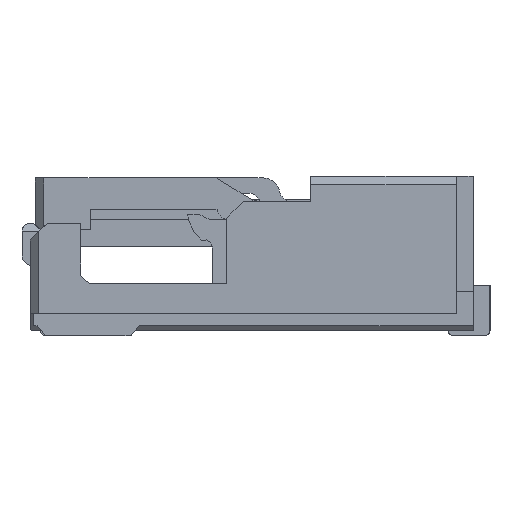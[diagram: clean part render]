
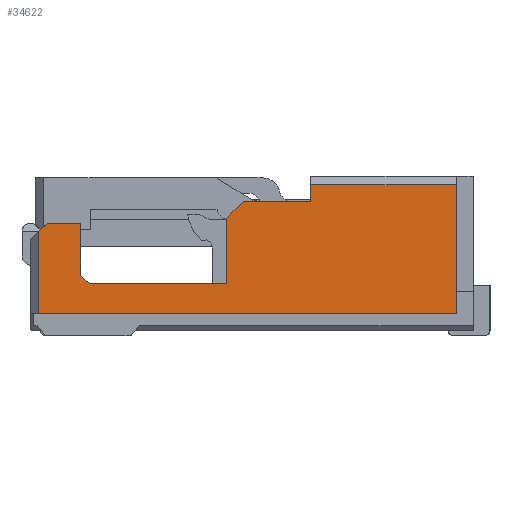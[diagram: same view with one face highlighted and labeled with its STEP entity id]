
A CAD part, left-side view. The second image highlights one B-rep face of the part: STEP entity #34622.
In plain terms, the highlighted planar face has unit normal (-1, 0, 0).
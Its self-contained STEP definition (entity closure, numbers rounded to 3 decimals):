
#573 = VECTOR ( 'NONE', #20013, 1000. ) ;
#641 = EDGE_CURVE ( 'NONE', #30850, #8297, #14460, .T. ) ;
#669 = CARTESIAN_POINT ( 'NONE',  ( -2.7, 2.34, 0. ) ) ;
#1071 = CARTESIAN_POINT ( 'NONE',  ( -2.7, 2.34, 0.64 ) ) ;
#1460 = CARTESIAN_POINT ( 'NONE',  ( -2.7, 0.97, 0.87 ) ) ;
#1805 = CARTESIAN_POINT ( 'NONE',  ( -2.7, 2.59, 0. ) ) ;
#1815 = ORIENTED_EDGE ( 'NONE', *, *, #8589, .F. ) ;
#2162 = LINE ( 'NONE', #34943, #16730 ) ;
#2318 = LINE ( 'NONE', #35091, #12048 ) ;
#2398 = ORIENTED_EDGE ( 'NONE', *, *, #3803, .F. ) ;
#2480 = VERTEX_POINT ( 'NONE', #1460 ) ;
#2626 = VERTEX_POINT ( 'NONE', #13104 ) ;
#2760 = DIRECTION ( 'NONE',  ( 1., 0., 0. ) ) ;
#3803 = EDGE_CURVE ( 'NONE', #8297, #36134, #34763, .T. ) ;
#4179 = LINE ( 'NONE', #25698, #5579 ) ;
#4307 = CARTESIAN_POINT ( 'NONE',  ( -2.7, 1.47, 0.67 ) ) ;
#4436 = LINE ( 'NONE', #669, #35626 ) ;
#5579 = VECTOR ( 'NONE', #21955, 1000. ) ;
#6031 = ORIENTED_EDGE ( 'NONE', *, *, #23932, .F. ) ;
#6080 = ORIENTED_EDGE ( 'NONE', *, *, #10478, .F. ) ;
#6511 = CARTESIAN_POINT ( 'NONE',  ( -2.7, 0., 0. ) ) ;
#6564 = VECTOR ( 'NONE', #34587, 1000. ) ;
#6652 = CARTESIAN_POINT ( 'NONE',  ( -2.7, 1.37, 0.77 ) ) ;
#6998 = DIRECTION ( 'NONE',  ( 0., -0.707, -0.707 ) ) ;
#8297 = VERTEX_POINT ( 'NONE', #10928 ) ;
#8589 = EDGE_CURVE ( 'NONE', #30743, #24937, #2318, .T. ) ;
#8709 = DIRECTION ( 'NONE',  ( 0., -1., 0. ) ) ;
#10478 = EDGE_CURVE ( 'NONE', #26644, #30850, #4436, .T. ) ;
#10720 = CARTESIAN_POINT ( 'NONE',  ( -2.7, 2.34, 0.33 ) ) ;
#10928 = CARTESIAN_POINT ( 'NONE',  ( -2.7, 2.29, 0.28 ) ) ;
#11089 = ORIENTED_EDGE ( 'NONE', *, *, #23338, .T. ) ;
#11406 = VERTEX_POINT ( 'NONE', #27192 ) ;
#11582 = VECTOR ( 'NONE', #27279, 1000. ) ;
#12048 = VECTOR ( 'NONE', #31360, 1000. ) ;
#12460 = CARTESIAN_POINT ( 'NONE',  ( -2.7, 0., 0.87 ) ) ;
#12629 = DIRECTION ( 'NONE',  ( 0., -0.707, 0.707 ) ) ;
#13010 = EDGE_CURVE ( 'NONE', #11406, #30743, #20512, .T. ) ;
#13075 = DIRECTION ( 'NONE',  ( 0., -1., 0. ) ) ;
#13104 = CARTESIAN_POINT ( 'NONE',  ( -2.7, 0.97, 0.77 ) ) ;
#13555 = VECTOR ( 'NONE', #24143, 1000. ) ;
#13979 = PLANE ( 'NONE',  #23043 ) ;
#14460 = LINE ( 'NONE', #10720, #32446 ) ;
#14724 = CARTESIAN_POINT ( 'NONE',  ( -2.7, 2.34, 0.33 ) ) ;
#14771 = ORIENTED_EDGE ( 'NONE', *, *, #20789, .F. ) ;
#14773 = VERTEX_POINT ( 'NONE', #19252 ) ;
#14840 = LINE ( 'NONE', #21433, #18795 ) ;
#15198 = VECTOR ( 'NONE', #12629, 1000. ) ;
#15822 = VERTEX_POINT ( 'NONE', #26695 ) ;
#16166 = LINE ( 'NONE', #12460, #27643 ) ;
#16345 = CARTESIAN_POINT ( 'NONE',  ( -2.7, 1.47, 0.67 ) ) ;
#16730 = VECTOR ( 'NONE', #31203, 1000. ) ;
#16811 = CARTESIAN_POINT ( 'NONE',  ( -2.7, 0., 0.77 ) ) ;
#17719 = DIRECTION ( 'NONE',  ( 0., 0., -1. ) ) ;
#18364 = ORIENTED_EDGE ( 'NONE', *, *, #33679, .F. ) ;
#18795 = VECTOR ( 'NONE', #17719, 1000. ) ;
#19252 = CARTESIAN_POINT ( 'NONE',  ( -2.7, 0.1, 0.87 ) ) ;
#19525 = ORIENTED_EDGE ( 'NONE', *, *, #22479, .T. ) ;
#20013 = DIRECTION ( 'NONE',  ( 0., 0., -1. ) ) ;
#20161 = ORIENTED_EDGE ( 'NONE', *, *, #21273, .F. ) ;
#20222 = FACE_OUTER_BOUND ( 'NONE', #21577, .T. ) ;
#20512 = LINE ( 'NONE', #1805, #6564 ) ;
#20554 = LINE ( 'NONE', #16811, #24433 ) ;
#20789 = EDGE_CURVE ( 'NONE', #2480, #14773, #16166, .T. ) ;
#21273 = EDGE_CURVE ( 'NONE', #29605, #35564, #23845, .T. ) ;
#21433 = CARTESIAN_POINT ( 'NONE',  ( -2.7, 0.1, 0. ) ) ;
#21577 = EDGE_LOOP ( 'NONE', ( #6031, #1815, #29285, #19525, #18364, #14771, #27936, #33662, #20161, #11089, #2398, #31814, #6080 ) ) ;
#21955 = DIRECTION ( 'NONE',  ( 0., -1., 0. ) ) ;
#22479 = EDGE_CURVE ( 'NONE', #11406, #15822, #4179, .T. ) ;
#23043 = AXIS2_PLACEMENT_3D ( 'NONE', #6511, #2760, #35503 ) ;
#23338 = EDGE_CURVE ( 'NONE', #29605, #36134, #27472, .T. ) ;
#23760 = CARTESIAN_POINT ( 'NONE',  ( -2.7, 1.47, 0.82 ) ) ;
#23845 = LINE ( 'NONE', #16345, #15198 ) ;
#23932 = EDGE_CURVE ( 'NONE', #24937, #26644, #31621, .T. ) ;
#24143 = DIRECTION ( 'NONE',  ( 0., -1., 0. ) ) ;
#24433 = VECTOR ( 'NONE', #13075, 1000. ) ;
#24937 = VERTEX_POINT ( 'NONE', #35684 ) ;
#25698 = CARTESIAN_POINT ( 'NONE',  ( -2.7, 0., 0.1 ) ) ;
#26644 = VERTEX_POINT ( 'NONE', #1071 ) ;
#26695 = CARTESIAN_POINT ( 'NONE',  ( -2.7, 0.1, 0.1 ) ) ;
#26730 = EDGE_CURVE ( 'NONE', #2626, #2480, #2162, .T. ) ;
#27192 = CARTESIAN_POINT ( 'NONE',  ( -2.7, 2.59, 0.1 ) ) ;
#27279 = DIRECTION ( 'NONE',  ( 0., -1., 0. ) ) ;
#27472 = LINE ( 'NONE', #23760, #573 ) ;
#27643 = VECTOR ( 'NONE', #8709, 1000. ) ;
#27865 = CARTESIAN_POINT ( 'NONE',  ( -2.7, 0., 0.64 ) ) ;
#27936 = ORIENTED_EDGE ( 'NONE', *, *, #26730, .F. ) ;
#29285 = ORIENTED_EDGE ( 'NONE', *, *, #13010, .F. ) ;
#29605 = VERTEX_POINT ( 'NONE', #4307 ) ;
#30546 = CARTESIAN_POINT ( 'NONE',  ( -2.7, 1.47, 0.28 ) ) ;
#30743 = VERTEX_POINT ( 'NONE', #33196 ) ;
#30850 = VERTEX_POINT ( 'NONE', #14724 ) ;
#31027 = CARTESIAN_POINT ( 'NONE',  ( -2.7, 0., 0.28 ) ) ;
#31203 = DIRECTION ( 'NONE',  ( 0., 0., 1. ) ) ;
#31360 = DIRECTION ( 'NONE',  ( 0., -0.707, 0.707 ) ) ;
#31621 = LINE ( 'NONE', #27865, #13555 ) ;
#31814 = ORIENTED_EDGE ( 'NONE', *, *, #641, .F. ) ;
#32446 = VECTOR ( 'NONE', #6998, 1000. ) ;
#33196 = CARTESIAN_POINT ( 'NONE',  ( -2.7, 2.59, 0.59 ) ) ;
#33436 = DIRECTION ( 'NONE',  ( 0., 0., -1. ) ) ;
#33662 = ORIENTED_EDGE ( 'NONE', *, *, #33704, .F. ) ;
#33679 = EDGE_CURVE ( 'NONE', #14773, #15822, #14840, .T. ) ;
#33704 = EDGE_CURVE ( 'NONE', #35564, #2626, #20554, .T. ) ;
#34587 = DIRECTION ( 'NONE',  ( 0., 0., 1. ) ) ;
#34622 = ADVANCED_FACE ( 'NONE', ( #20222 ), #13979, .F. ) ;
#34763 = LINE ( 'NONE', #31027, #11582 ) ;
#34943 = CARTESIAN_POINT ( 'NONE',  ( -2.7, 0.97, 0.92 ) ) ;
#35091 = CARTESIAN_POINT ( 'NONE',  ( -2.7, 2.59, 0.59 ) ) ;
#35503 = DIRECTION ( 'NONE',  ( 0., 1., 0. ) ) ;
#35564 = VERTEX_POINT ( 'NONE', #6652 ) ;
#35626 = VECTOR ( 'NONE', #33436, 1000. ) ;
#35684 = CARTESIAN_POINT ( 'NONE',  ( -2.7, 2.54, 0.64 ) ) ;
#36134 = VERTEX_POINT ( 'NONE', #30546 ) ;
